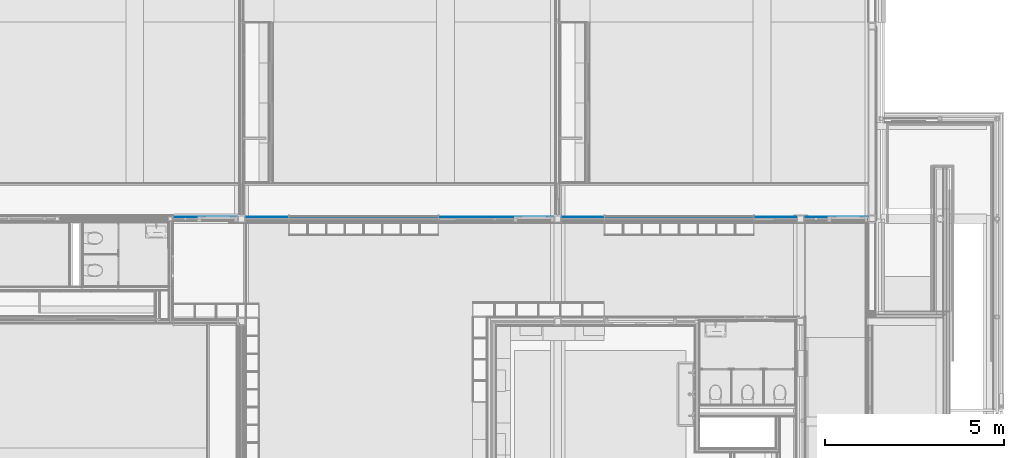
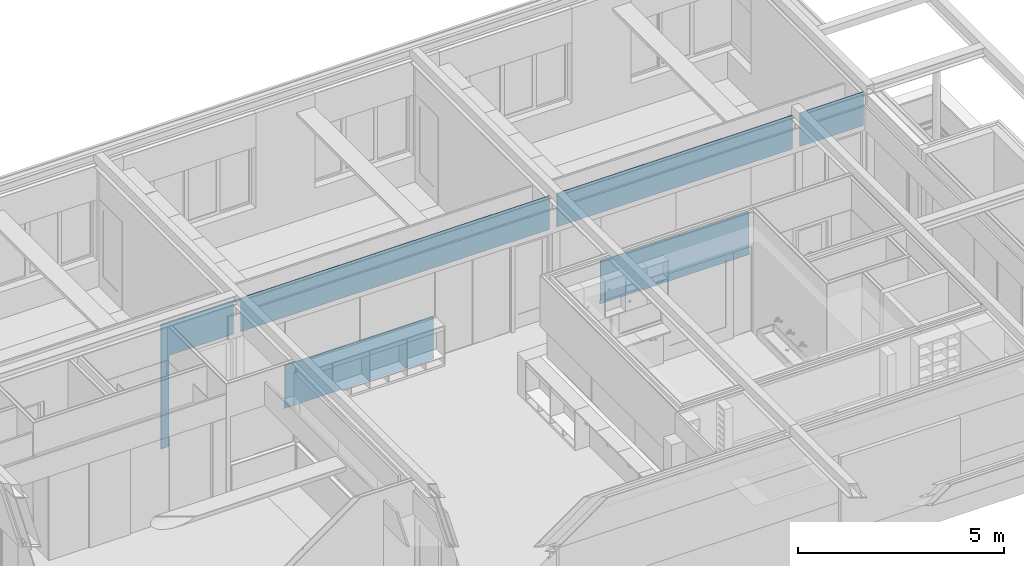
# One storey, part 47 of 137: 1 building element part, 14 openings, 1 element without a shape of its own.
"""IFC2X3 building model written with IfcOpenShell, lengths in millimetres."""

import ifcopenshell
import ifcopenshell.guid

model = None  # the IFC model being written
_history = None  # IfcOwnerHistory: only IFC2X3 demands one
_inside = {}  # id of a spatial element -> (the spatial element, [elements in it])
_under = {}  # id of a project, library or spatial element -> (it, [spatial elements below it])
_declared = {}  # id of a project -> (the project, [libraries it declares])
_typed = {}  # id of a type object -> (the type object, [elements of that type])
_made_of = {}  # id of a material, layer set ... -> (it, [elements and type objects made of it])


def new_model(schema):
    """Start an empty IFC model of exactly this schema.

    Asked for "IFC4X3", IfcOpenShell would pick the latest addendum, in which some entities
    have other attributes; the version numbers below select the first issue.
    IFC2X3 requires an IfcOwnerHistory on every rooted entity: one is made here for all.
    """
    global model, _history
    if schema == "IFC4X3":
        model = ifcopenshell.file(schema_version=(4, 3, 0, 0))
    else:
        model = ifcopenshell.file(schema=schema)
    _inside.clear()
    _under.clear()
    _declared.clear()
    _typed.clear()
    _made_of.clear()
    _history = None
    if model.schema == "IFC2X3":
        org = make("IfcOrganization", Name="unknown")
        user = make(
            "IfcPersonAndOrganization",
            ThePerson=make("IfcPerson", FamilyName="unknown"),
            TheOrganization=org,
        )
        app = make(
            "IfcApplication",
            ApplicationDeveloper=org,
            Version="unknown",
            ApplicationFullName="unknown",
            ApplicationIdentifier="unknown",
        )
        _history = make(
            "IfcOwnerHistory",
            OwningUser=user,
            OwningApplication=app,
            ChangeAction="ADDED",
            CreationDate=0,
        )
    return model


def make(cls, **values):
    """One entity of the class cls with the attributes given. An attribute that is None is left unset."""
    return model.create_entity(
        cls, **{name: value for name, value in values.items() if value is not None}
    )


def entity(cls, *values):
    """Any entity or typed value of the class cls, its attributes in the order of the schema. None: left unset."""
    e = model.create_entity(cls)
    for i, value in enumerate(values):
        if value is not None:
            e[i] = value
    return e


def rooted(cls, **values):
    """An entity with a GlobalId (a new one), such as an element, a storey or a relation."""
    return make(cls, GlobalId=ifcopenshell.guid.new(), OwnerHistory=_history, **values)


def si_unit(unit_type, name, prefix=None):
    """IfcSIUnit, for example si_unit("LENGTHUNIT", "METRE", prefix="MILLI")."""
    return make("IfcSIUnit", UnitType=unit_type, Prefix=prefix, Name=name)


def converted_unit(unit_type, name, factor, base, dimensions=None, offset=None):
    """IfcConversionBasedUnit, such as the inch: factor (a typed value) times the base unit."""
    return make(
        "IfcConversionBasedUnit"
        if offset is None
        else "IfcConversionBasedUnitWithOffset",
        ConversionOffset=offset,
        Dimensions=None
        if dimensions is None
        else entity("IfcDimensionalExponents", *dimensions),
        UnitType=unit_type,
        Name=name,
        ConversionFactor=make(
            "IfcMeasureWithUnit", ValueComponent=factor, UnitComponent=base
        ),
    )


def derived_unit(unit_type, elements):
    """IfcDerivedUnit: a product of units, each with its exponent."""
    return make(
        "IfcDerivedUnit",
        Elements=[
            make("IfcDerivedUnitElement", Unit=unit, Exponent=power)
            for unit, power in elements
        ],
        UnitType=unit_type,
    )


def money_unit(currency):
    """IfcMonetaryUnit."""
    return make("IfcMonetaryUnit", Currency=currency)


def assignment(units):
    """IfcUnitAssignment: the units of a project."""
    return None if units is None else make("IfcUnitAssignment", Units=units)


def point(xyz):
    """IfcCartesianPoint."""
    return None if xyz is None else make("IfcCartesianPoint", Coordinates=xyz)


def direction(xyz):
    """IfcDirection."""
    return None if xyz is None else make("IfcDirection", DirectionRatios=xyz)


def frame(location, z_axis=None, x_axis=None):
    """IfcAxis2Placement3D, a coordinate frame: its origin and axes. An axis left out is left unset."""
    return make(
        "IfcAxis2Placement3D",
        Location=point(location),
        Axis=direction(z_axis),
        RefDirection=direction(x_axis),
    )


def origin_with_axes():
    """The frame at (0, 0, 0) with the z axis (0, 0, 1) and the x axis (1, 0, 0) written out."""
    return frame((0.0, 0.0, 0.0), z_axis=(0.0, 0.0, 1.0), x_axis=(1.0, 0.0, 0.0))


def place(relative_to, where):
    """IfcLocalPlacement: puts the frame where relative to a parent placement (None: the world)."""
    return make(
        "IfcLocalPlacement", PlacementRelTo=relative_to, RelativePlacement=where
    )


def context(
    kind, dimensions, precision=None, world=None, true_north=None, identifier=None
):
    """IfcGeometricRepresentationContext, for example the 3D "Model" context."""
    return make(
        "IfcGeometricRepresentationContext",
        ContextIdentifier=identifier,
        ContextType=kind,
        CoordinateSpaceDimension=dimensions,
        Precision=precision,
        WorldCoordinateSystem=world,
        TrueNorth=true_north,
    )


def subcontext(parent, identifier, kind, view, scale=None):
    """IfcGeometricRepresentationSubContext, for example "Body" below "Model"."""
    return make(
        "IfcGeometricRepresentationSubContext",
        ContextIdentifier=identifier,
        ContextType=kind,
        ParentContext=parent,
        TargetScale=scale,
        TargetView=view,
    )


def project(units=None, contexts=None):
    """IfcProject with its units and contexts."""
    return rooted(
        "IfcProject",
        Name="project",
        RepresentationContexts=contexts,
        UnitsInContext=assignment(units),
    )


def spatial(cls, under=None, at=None, **own):
    """A site, building, storey or space (cls), placed at a placement, below another one or the project."""
    s = rooted(cls, ObjectPlacement=at, **own)
    if under is not None:
        _under.setdefault(under.id(), (under, []))[1].append(s)
    return s


def faces_of(points, faces, orient=None, outer=None):
    """IfcFace entities. A face is a list of loops; a loop is a list of indices into points, from 0.

    orient and outer hold one flag for each loop. By default every Orientation is true, the
    first loop of a face is its IfcFaceOuterBound and the others are IfcFaceBound.
    """
    made = []
    for i, loops in enumerate(faces):
        bounds = []
        for j, loop in enumerate(loops):
            is_outer = j == 0 if outer is None else outer[i][j]
            bounds.append(
                make(
                    "IfcFaceOuterBound" if is_outer else "IfcFaceBound",
                    Bound=make("IfcPolyLoop", Polygon=[points[k] for k in loop]),
                    Orientation=True if orient is None else orient[i][j],
                )
            )
        made.append(make("IfcFace", Bounds=bounds))
    return made


def faceted_brep(points, faces, orient=None, outer=None, voids=None):
    """IfcFacetedBrep: a solid bounded by flat faces; with voids (closed shells), ...WithVoids."""
    shared = [point(p) for p in points]
    hull = make("IfcClosedShell", CfsFaces=faces_of(shared, faces, orient, outer))
    if voids is None:
        return make("IfcFacetedBrep", Outer=hull)
    return make(
        "IfcFacetedBrepWithVoids",
        Outer=hull,
        Voids=[
            make(cls, CfsFaces=faces_of(shared, fs, o, b)) for cls, fs, o, b in voids
        ],
    )


def shape(context_of_items, identifier, shape_type, items):
    """IfcShapeRepresentation: the items that make up one representation, for example the "Body"."""
    return make(
        "IfcShapeRepresentation",
        ContextOfItems=context_of_items,
        RepresentationIdentifier=identifier,
        RepresentationType=shape_type,
        Items=items,
    )


def material(Name=None, Category=None):
    """IfcMaterial."""
    return make("IfcMaterial", Name=Name, Category=Category)


def made_of(thing, what):
    """Note that an element or type object is made of a material, layer set ...; save() writes the relation."""
    if what is not None:
        _made_of.setdefault(what.id(), (what, []))[1].append(thing)
    return thing


def type_object(cls, material=None, **own):
    """A type object (cls), such as IfcWallType, which elements share."""
    return made_of(rooted(cls, **own), material)


def element(
    cls,
    number,
    at=None,
    inside=None,
    cuts=None,
    type_object=None,
    material=None,
    context=None,
    identifier="Body",
    shape_type=None,
    held_by="IfcProductDefinitionShape",
    body=None,
    shapes=None,
    **own,
):
    """One element of the class cls, such as IfcWall. Its Tag is "e" and its number.

    at: its placement. inside: the storey or other place that contains it. cuts: it is an
    opening in that element (IfcRelVoidsElement). A single representation is given by context,
    identifier, shape_type and body (its items); several are given by shapes. held_by: the class
    of the entity that holds the representations. save() writes the other relations.
    """
    e = rooted(cls, Tag="e%d" % number, ObjectPlacement=at, **own)
    if body is not None:
        shapes = [shape(context, identifier, shape_type, body)]
    if shapes is not None:
        e.Representation = make(held_by, Representations=shapes)
    if inside is not None:
        _inside.setdefault(inside.id(), (inside, []))[1].append(e)
    if cuts is not None:
        rooted(
            "IfcRelVoidsElement", RelatingBuildingElement=cuts, RelatedOpeningElement=e
        )
    if type_object is not None:
        _typed.setdefault(type_object.id(), (type_object, []))[1].append(e)
    return made_of(e, material)


def aggregate(whole, parts):
    """IfcRelAggregates: a whole, such as a stair, and the parts it consists of."""
    return rooted("IfcRelAggregates", RelatingObject=whole, RelatedObjects=parts)


def save(model, path):
    """Write the relations noted so far, then the file.

    IfcRelAggregates (storeys below a building ...), IfcRelContainedInSpatialStructure (elements
    in a storey), IfcRelDefinesByType, IfcRelAssociatesMaterial and IfcRelDeclares: one each for
    every whole, place, type object, material and project.
    """
    for whole, parts in _under.values():
        aggregate(whole, parts)
    for where, things in _inside.values():
        rooted(
            "IfcRelContainedInSpatialStructure",
            RelatedElements=things,
            RelatingStructure=where,
        )
    for kind, things in _typed.values():
        rooted("IfcRelDefinesByType", RelatedObjects=things, RelatingType=kind)
    for what, things in _made_of.values():
        rooted("IfcRelAssociatesMaterial", RelatedObjects=things, RelatingMaterial=what)
    for by, libraries in _declared.values():
        rooted("IfcRelDeclares", RelatingContext=by, RelatedDefinitions=libraries)
    model.write(path)


model = new_model("IFC2X3")

# Units and contexts
model_context = context("Model", 3, precision=0.01, world=origin_with_axes(), true_north=direction((0.0, 1.0)))
body_context = subcontext(model_context, "Body", "Model", "MODEL_VIEW")
ifc_project = project(units=[si_unit("LENGTHUNIT", "METRE", prefix="MILLI"), si_unit("AREAUNIT", "SQUARE_METRE"), si_unit("VOLUMEUNIT", "CUBIC_METRE"), converted_unit("PLANEANGLEUNIT", "DEGREE", entity("IfcPlaneAngleMeasure", 0.0174532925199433), si_unit("PLANEANGLEUNIT", "RADIAN"), dimensions=[0, 0, 0, 0, 0, 0, 0]), money_unit("EUR"), converted_unit("TIMEUNIT", "Year", entity("IfcTimeMeasure", 31556926.0), si_unit("TIMEUNIT", "SECOND"), dimensions=[0, 0, 1, 0, 0, 0, 0]), si_unit("MASSUNIT", "GRAM", prefix="KILO"), si_unit("THERMODYNAMICTEMPERATUREUNIT", "DEGREE_CELSIUS"), si_unit("LUMINOUSINTENSITYUNIT", "LUMEN"), si_unit("ENERGYUNIT", "JOULE", prefix="MEGA"), derived_unit("THERMALCONDUCTANCEUNIT", [(si_unit("POWERUNIT", "WATT"), 1), (si_unit("LENGTHUNIT", "METRE"), -1), (si_unit("THERMODYNAMICTEMPERATUREUNIT", "KELVIN"), -1)]), derived_unit("SPECIFICHEATCAPACITYUNIT", [(si_unit("ENERGYUNIT", "JOULE"), 1), (si_unit("MASSUNIT", "GRAM", prefix="KILO"), -1), (si_unit("THERMODYNAMICTEMPERATUREUNIT", "KELVIN"), -1)]), derived_unit("MASSDENSITYUNIT", [(si_unit("MASSUNIT", "GRAM", prefix="KILO"), 1), (si_unit("VOLUMEUNIT", "CUBIC_METRE"), -1)])], contexts=[model_context])

# Site, building, storey
site_placement = place(None, origin_with_axes())
site = spatial("IfcSite", under=ifc_project, at=site_placement, Name="Site", CompositionType="ELEMENT")
building_placement = place(site_placement, origin_with_axes())
building = spatial("IfcBuilding", under=site, at=building_placement, Name="Naam gebouw", CompositionType="ELEMENT")
storey_placement = place(building_placement, frame((0.0, 0.0, 3960.0), z_axis=(0.0, 0.0, 1.0), x_axis=(1.0, 0.0, 0.0)))
storey = spatial("IfcBuildingStorey", under=building, at=storey_placement, Name="1e verdieping", CompositionType="ELEMENT", Elevation=3960.0)

# Proxy, openings, building element part
building_element_proxy_type = type_object("IfcBuildingElementProxyType", Name="22 Metal stud 125 gips 125", PredefinedType="NOTDEFINED")
proxy_placement = place(storey_placement, frame((6940.0, 22324.97621406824, -100.0000000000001), z_axis=(0.0, 0.0, 1.0), x_axis=(1.0, 0.0, 0.0)))
proxy = element("IfcBuildingElementProxy", 1, at=proxy_placement, inside=storey, type_object=building_element_proxy_type, Name="_Wand-x")
opening_1_placement = place(proxy_placement, frame((16859.99903999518, 0.0, 100.0000000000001), z_axis=(0.0, 0.0, 1.0), x_axis=(1.0, 0.0, 0.0)))
element("IfcOpeningElement", 2, at=opening_1_placement, cuts=proxy, Name="_B.01", context=body_context, shape_type="Brep", body=[
    faceted_brep([(599.9999999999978, -12.49999999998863, -100.0000000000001), (599.9999999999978, -12.49999999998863, 2600.0), (599.9999999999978, -63.49999999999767, 2600.0), (599.9999999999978, -63.49999999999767, -100.0000000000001), (599.9999999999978, 63.50000000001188, -100.0000000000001), (599.9999999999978, 63.50000000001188, 2600.0), (-599.9999999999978, -12.49999999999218, 2600.0), (-599.9999999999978, -63.50000000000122, 2600.0), (-599.9999999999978, 63.50000000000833, 2600.0), (-599.9999999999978, -63.50000000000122, -100.0000000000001), (-599.9999999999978, -12.49999999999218, -100.0000000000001), (-599.9999999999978, 63.50000000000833, -100.0000000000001)], [[[0, 1, 2, 3]], [[1, 0, 4, 5]], [[6, 7, 2, 1, 5, 8]], [[7, 9, 3, 2]], [[0, 3, 9, 10, 11, 4]], [[5, 4, 11, 8]], [[6, 10, 9, 7]], [[10, 6, 8, 11]]]),
])
opening_2_placement = place(proxy_placement, frame((11459.99903999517, 0.0, 100.0000000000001), z_axis=(0.0, 0.0, 1.0), x_axis=(1.0, 0.0, 0.0)))
element("IfcOpeningElement", 3, at=opening_2_placement, cuts=proxy, Name="_B.01", context=body_context, shape_type="Brep", body=[
    faceted_brep([(600.0000000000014, -12.49999999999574, -100.0000000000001), (600.0000000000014, -12.49999999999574, 2600.0), (600.0000000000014, -63.50000000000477, 2600.0), (600.0000000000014, -63.50000000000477, -100.0000000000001), (600.0000000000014, 63.50000000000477, -100.0000000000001), (600.0000000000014, 63.50000000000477, 2600.0), (-600.0000000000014, -12.49999999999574, 2600.0), (-600.0000000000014, -63.50000000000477, 2600.0), (-600.0000000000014, 63.50000000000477, 2600.0), (-600.0000000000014, -63.50000000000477, -100.0000000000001), (-600.0000000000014, -12.49999999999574, -100.0000000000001), (-600.0000000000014, 63.50000000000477, -100.0000000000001)], [[[0, 1, 2, 3]], [[1, 0, 4, 5]], [[6, 7, 2, 1, 5, 8]], [[7, 9, 3, 2]], [[0, 3, 9, 10, 11, 4]], [[5, 4, 11, 8]], [[6, 10, 9, 7]], [[10, 6, 8, 11]]]),
])
opening_3_placement = place(proxy_placement, frame((7954.999824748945, 0.0, 100.0000000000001), z_axis=(0.0, 0.0, 1.0), x_axis=(1.0, 0.0, 0.0)))
element("IfcOpeningElement", 4, at=opening_3_placement, cuts=proxy, Name="_B.06", context=body_context, shape_type="Brep", body=[
    faceted_brep([(524.9998247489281, -12.49999999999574, -100.0000000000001), (524.9998247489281, -12.49999999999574, 2600.0), (524.9998247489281, -63.50000000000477, 2600.0), (524.9998247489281, -63.50000000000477, -100.0000000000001), (524.9998247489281, 63.50000000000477, -100.0000000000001), (524.9998247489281, 63.50000000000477, 2600.0), (-524.9998247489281, -12.49999999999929, 2600.0), (-524.9998247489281, -63.50000000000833, 2600.0), (-524.9998247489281, 63.50000000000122, 2600.0), (-524.9998247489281, -63.50000000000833, -100.0000000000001), (-524.9998247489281, -12.49999999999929, -100.0000000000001), (-524.9998247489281, 63.50000000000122, -100.0000000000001)], [[[0, 1, 2, 3]], [[1, 0, 4, 5]], [[6, 7, 2, 1, 5, 8]], [[7, 9, 3, 2]], [[0, 3, 9, 10, 11, 4]], [[5, 4, 11, 8]], [[6, 10, 9, 7]], [[10, 6, 8, 11]]]),
])
opening_4_placement = place(proxy_placement, frame((15209.99903999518, 0.0, 1300.0), z_axis=(0.0, 0.0, 1.0), x_axis=(1.0, 0.0, 0.0)))
element("IfcOpeningElement", 5, at=opening_4_placement, cuts=proxy, Name="_C.01", context=body_context, shape_type="Brep", body=[
    faceted_brep([(1050.000000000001, -12.49999999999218, 0.0), (1050.000000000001, -12.49999999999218, 1400.0), (1050.000000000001, -63.50000000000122, 1400.0), (1050.000000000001, -63.50000000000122, 0.0), (1050.000000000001, 63.50000000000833, 0.0), (1050.000000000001, 63.50000000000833, 1400.0), (-1050.000000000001, -12.49999999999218, 1400.0), (-1050.000000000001, -63.50000000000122, 1400.0), (-1050.000000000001, 63.50000000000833, 1400.0), (-1050.000000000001, -63.50000000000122, 0.0), (-1050.000000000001, -12.49999999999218, 0.0), (-1050.000000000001, 63.50000000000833, 0.0)], [[[0, 1, 2, 3]], [[1, 0, 4, 5]], [[6, 7, 2, 1, 5, 8]], [[7, 9, 3, 2]], [[0, 3, 9, 10, 11, 4]], [[5, 4, 11, 8]], [[6, 10, 9, 7]], [[10, 6, 8, 11]]]),
])
opening_5_placement = place(proxy_placement, frame((2620.000000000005, 0.0, 100.0000000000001), z_axis=(0.0, 0.0, 1.0), x_axis=(1.0, 0.0, 0.0)))
element("IfcOpeningElement", 6, at=opening_5_placement, cuts=proxy, Name="_B.03", context=body_context, shape_type="Brep", body=[
    faceted_brep([(610.0000000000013, -12.49999999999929, -100.0000000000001), (610.0000000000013, -12.49999999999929, 2600.0), (610.0000000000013, -63.50000000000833, 2600.0), (610.0000000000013, -63.50000000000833, -100.0000000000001), (610.0000000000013, 63.50000000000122, -100.0000000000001), (610.0000000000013, 63.50000000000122, 2600.0), (-610.0000000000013, -12.49999999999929, 2600.0), (-610.0000000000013, -63.50000000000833, 2600.0), (-610.0000000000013, 63.50000000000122, 2600.0), (-610.0000000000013, -63.50000000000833, -100.0000000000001), (-610.0000000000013, -12.49999999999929, -100.0000000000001), (-610.0000000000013, 63.50000000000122, -100.0000000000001)], [[[0, 1, 2, 3]], [[1, 0, 4, 5]], [[6, 7, 2, 1, 5, 8]], [[7, 9, 3, 2]], [[0, 3, 9, 10, 11, 4]], [[5, 4, 11, 8]], [[6, 10, 9, 7]], [[10, 6, 8, 11]]]),
])
opening_6_placement = place(proxy_placement, frame((6380.000000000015, 0.0, 1300.0), z_axis=(0.0, 0.0, 1.0), x_axis=(1.0, 0.0, 0.0)))
element("IfcOpeningElement", 7, at=opening_6_placement, cuts=proxy, Name="_C.01", context=body_context, shape_type="Brep", body=[
    faceted_brep([(1050.000000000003, -12.49999999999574, 0.0), (1050.000000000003, -12.49999999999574, 1400.0), (1050.000000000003, -63.50000000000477, 1400.0), (1050.000000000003, -63.50000000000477, 0.0), (1050.000000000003, 63.50000000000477, 0.0), (1050.000000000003, 63.50000000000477, 1400.0), (-1050.000000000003, -12.49999999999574, 1400.0), (-1050.000000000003, -63.50000000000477, 1400.0), (-1050.000000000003, 63.50000000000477, 1400.0), (-1050.000000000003, -63.50000000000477, 0.0), (-1050.000000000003, -12.49999999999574, 0.0), (-1050.000000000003, 63.50000000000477, 0.0)], [[[0, 1, 2, 3]], [[1, 0, 4, 5]], [[6, 7, 2, 1, 5, 8]], [[7, 9, 3, 2]], [[0, 3, 9, 10, 11, 4]], [[5, 4, 11, 8]], [[6, 10, 9, 7]], [[10, 6, 8, 11]]]),
])
opening_7_placement = place(proxy_placement, frame((4279.999712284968, 0.0, 1300.0), z_axis=(0.0, 0.0, 1.0), x_axis=(1.0, 0.0, 0.0)))
element("IfcOpeningElement", 8, at=opening_7_placement, cuts=proxy, Name="_C.01", context=body_context, shape_type="Brep", body=[
    faceted_brep([(1049.999712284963, -12.49999999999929, 0.0), (1049.999712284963, -12.49999999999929, 1400.0), (1049.999712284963, -63.50000000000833, 1400.0), (1049.999712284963, -63.50000000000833, 0.0), (1049.999712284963, 63.50000000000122, 0.0), (1049.999712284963, 63.50000000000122, 1400.0), (-1049.999712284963, -12.49999999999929, 1400.0), (-1049.999712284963, -63.50000000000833, 1400.0), (-1049.999712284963, 63.50000000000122, 1400.0), (-1049.999712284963, -63.50000000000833, 0.0), (-1049.999712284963, -12.49999999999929, 0.0), (-1049.999712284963, 63.50000000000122, 0.0)], [[[0, 1, 2, 3]], [[1, 0, 4, 5]], [[6, 7, 2, 1, 5, 8]], [[7, 9, 3, 2]], [[0, 3, 9, 10, 11, 4]], [[5, 4, 11, 8]], [[6, 10, 9, 7]], [[10, 6, 8, 11]]]),
])
opening_8_placement = place(proxy_placement, frame((9004.999474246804, 0.0, 100.0000000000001), z_axis=(0.0, 0.0, 1.0), x_axis=(1.0, 0.0, 0.0)))
element("IfcOpeningElement", 9, at=opening_8_placement, cuts=proxy, Name="_B.06", context=body_context, shape_type="Brep", body=[
    faceted_brep([(524.9998247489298, -12.49999999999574, -100.0000000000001), (524.9998247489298, -12.49999999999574, 2600.0), (524.9998247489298, -63.50000000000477, 2600.0), (524.9998247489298, -63.50000000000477, -100.0000000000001), (524.9998247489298, 63.50000000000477, -100.0000000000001), (524.9998247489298, 63.50000000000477, 2600.0), (-524.9998247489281, -12.49999999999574, 2600.0), (-524.9998247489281, -63.50000000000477, 2600.0), (-524.9998247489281, 63.50000000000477, 2600.0), (-524.9998247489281, -63.50000000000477, -100.0000000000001), (-524.9998247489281, -12.49999999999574, -100.0000000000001), (-524.9998247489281, 63.50000000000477, -100.0000000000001)], [[[0, 1, 2, 3]], [[1, 0, 4, 5]], [[6, 7, 2, 1, 5, 8]], [[7, 9, 3, 2]], [[0, 3, 9, 10, 11, 4]], [[5, 4, 11, 8]], [[6, 10, 9, 7]], [[10, 6, 8, 11]]]),
])
opening_9_placement = place(proxy_placement, frame((17987.99950490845, 0.0, 100.0000000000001), z_axis=(0.0, 0.0, 1.0), x_axis=(1.0, 0.0, 0.0)))
element("IfcOpeningElement", 10, at=opening_9_placement, cuts=proxy, Name="_B.09", context=body_context, shape_type="Brep", body=[
    faceted_brep([(-328.0004950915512, 12.50000000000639, -100.0000000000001), (-328.0004950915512, 12.50000000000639, 2600.0), (-328.0004950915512, 63.50000000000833, 2600.0), (-328.0004950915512, 63.50000000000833, -100.0000000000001), (-328.0004950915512, -63.50000000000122, -100.0000000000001), (-328.0004950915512, -63.50000000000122, 2600.0), (328.0004950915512, 12.50000000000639, 2600.0), (328.0004950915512, 63.50000000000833, 2600.0), (328.0004950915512, -63.50000000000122, 2600.0), (328.0004950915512, 63.50000000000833, -100.0000000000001), (328.0004950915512, 12.50000000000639, -100.0000000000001), (328.0004950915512, -63.50000000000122, -100.0000000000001)], [[[0, 1, 2, 3]], [[1, 0, 4, 5]], [[6, 7, 2, 1, 5, 8]], [[7, 9, 3, 2]], [[0, 3, 9, 10, 11, 4]], [[5, 4, 11, 8]], [[6, 10, 9, 7]], [[10, 6, 8, 11]]]),
])
opening_10_placement = place(proxy_placement, frame((18881.0, 0.0, 100.0000000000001), z_axis=(0.0, 0.0, 1.0), x_axis=(1.0, 0.0, 0.0)))
element("IfcOpeningElement", 11, at=opening_10_placement, cuts=proxy, Name="_01.01", context=body_context, shape_type="Brep", body=[
    faceted_brep([(-565.0000000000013, -63.50000000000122, 2600.0), (-565.0000000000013, -63.50000000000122, -100.0000000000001), (565.0000000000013, -63.50000000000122, -100.0000000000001), (565.0000000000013, -63.50000000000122, 2600.0), (-565.0000000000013, 63.50000000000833, 2600.0), (-565.0000000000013, 63.50000000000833, -100.0000000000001), (565.0000000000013, 63.50000000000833, -100.0000000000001), (565.0000000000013, 63.50000000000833, 2600.0)], [[[0, 1, 2, 3]], [[4, 5, 1, 0]], [[5, 6, 2, 1]], [[6, 7, 3, 2]], [[7, 4, 0, 3]], [[6, 5, 4, 7]]]),
])
opening_11_placement = place(proxy_placement, frame((339.9999604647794, 0.0, 100.0000000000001), z_axis=(0.0, 0.0, 1.0), x_axis=(1.0, 0.0, 0.0)))
element("IfcOpeningElement", 12, at=opening_11_placement, cuts=proxy, Name="_B.07", context=body_context, shape_type="Brep", body=[
    faceted_brep([(-339.9999604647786, 12.49999999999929, -100.0000000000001), (-339.9999604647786, 12.49999999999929, 2600.0), (-339.9999604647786, 63.50000000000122, 2600.0), (-339.9999604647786, 63.50000000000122, -100.0000000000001), (-339.9999604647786, -63.50000000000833, -100.0000000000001), (-339.9999604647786, -63.50000000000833, 2600.0), (339.9999604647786, 12.49999999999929, 2600.0), (339.9999604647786, 63.50000000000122, 2600.0), (339.9999604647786, -63.50000000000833, 2600.0), (339.9999604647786, 63.50000000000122, -100.0000000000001), (339.9999604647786, 12.49999999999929, -100.0000000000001), (339.9999604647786, -63.50000000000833, -100.0000000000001)], [[[0, 1, 2, 3]], [[1, 0, 4, 5]], [[6, 7, 2, 1, 5, 8]], [[7, 9, 3, 2]], [[0, 3, 9, 10, 11, 4]], [[5, 4, 11, 8]], [[6, 10, 9, 7]], [[10, 6, 8, 11]]]),
])
opening_12_placement = place(proxy_placement, frame((10094.99929899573, 0.0, 100.0000000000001), z_axis=(0.0, 0.0, 1.0), x_axis=(1.0, 0.0, 0.0)))
element("IfcOpeningElement", 13, at=opening_12_placement, cuts=proxy, Name="_01.01", context=body_context, shape_type="Brep", body=[
    faceted_brep([(-565.0000000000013, -63.50000000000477, 2600.0), (-565.0000000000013, -63.50000000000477, -100.0000000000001), (565.0000000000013, -63.50000000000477, -100.0000000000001), (565.0000000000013, -63.50000000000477, 2600.0), (-565.0000000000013, 63.50000000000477, 2600.0), (-565.0000000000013, 63.50000000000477, -100.0000000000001), (565.0000000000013, 63.50000000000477, -100.0000000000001), (565.0000000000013, 63.50000000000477, 2600.0)], [[[0, 1, 2, 3]], [[4, 5, 1, 0]], [[5, 6, 2, 1]], [[6, 7, 3, 2]], [[7, 4, 0, 3]], [[6, 5, 4, 7]]]),
])
opening_13_placement = place(proxy_placement, frame((13109.99903999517, 0.0, 1300.0), z_axis=(0.0, 0.0, 1.0), x_axis=(1.0, 0.0, 0.0)))
element("IfcOpeningElement", 14, at=opening_13_placement, cuts=proxy, Name="_C.01", context=body_context, shape_type="Brep", body=[
    faceted_brep([(1050.000000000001, -12.49999999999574, 0.0), (1050.000000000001, -12.49999999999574, 1400.0), (1050.000000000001, -63.50000000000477, 1400.0), (1050.000000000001, -63.50000000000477, 0.0), (1050.000000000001, 63.50000000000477, 0.0), (1050.000000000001, 63.50000000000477, 1400.0), (-1050.000000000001, -12.49999999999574, 1400.0), (-1050.000000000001, -63.50000000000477, 1400.0), (-1050.000000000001, 63.50000000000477, 1400.0), (-1050.000000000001, -63.50000000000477, 0.0), (-1050.000000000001, -12.49999999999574, 0.0), (-1050.000000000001, 63.50000000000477, 0.0)], [[[0, 1, 2, 3]], [[1, 0, 4, 5]], [[6, 7, 2, 1, 5, 8]], [[7, 9, 3, 2]], [[0, 3, 9, 10, 11, 4]], [[5, 4, 11, 8]], [[6, 10, 9, 7]], [[10, 6, 8, 11]]]),
])
opening_14_placement = place(proxy_placement, frame((1244.999920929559, 0.0, 100.0000000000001), z_axis=(0.0, 0.0, 1.0), x_axis=(1.0, 0.0, 0.0)))
element("IfcOpeningElement", 15, at=opening_14_placement, cuts=proxy, Name="_01.01", context=body_context, shape_type="Brep", body=[
    faceted_brep([(-564.9999999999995, -63.50000000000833, 2600.0), (-564.9999999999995, -63.50000000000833, -100.0000000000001), (564.9999999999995, -63.50000000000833, -100.0000000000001), (564.9999999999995, -63.50000000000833, 2600.0), (-564.9999999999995, 63.50000000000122, 2600.0), (-564.9999999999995, 63.50000000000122, -100.0000000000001), (564.9999999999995, 63.50000000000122, -100.0000000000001), (564.9999999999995, 63.50000000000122, 2600.0)], [[[0, 1, 2, 3]], [[4, 5, 1, 0]], [[5, 6, 2, 1]], [[6, 7, 3, 2]], [[7, 4, 0, 3]], [[6, 5, 4, 7]]]),
])
ifc_material = material(Name="Gipsplaat")
building_element_part_placement = place(proxy_placement, origin_with_axes())
building_element_part = element("IfcBuildingElementPart", 16, at=building_element_part_placement, material=ifc_material, Name="Gipsplaat", context=body_context, shape_type="Brep", body=[
    faceted_brep([(16239.9990399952, 62.50000000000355, 1280.000000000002), (16239.9990399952, 62.50000000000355, 100.0000000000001), (16259.99903999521, 62.50000000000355, 100.0000000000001), (16259.99903999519, 62.50000000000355, 0.0), (12059.99903999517, 62.50000000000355, 0.0), (12059.99903998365, 62.50000000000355, 100.0000000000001), (12079.99903998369, 62.50000000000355, 100.0000000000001), (12079.99903999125, 62.50000000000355, 1280.000000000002), (16239.9990399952, 50.00000000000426, 1280.000000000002), (16239.9990399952, 50.00000000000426, 100.0000000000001), (16259.99903999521, 50.00000000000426, 100.0000000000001), (16259.99903999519, 50.00000000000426, 0.0), (12059.99903999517, 50.00000000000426, 0.0), (12059.999016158, 50.00000000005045, 100.0000000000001), (12079.99901615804, 50.00000000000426, 100.0000000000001), (12079.99901616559, 50.00000000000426, 1280.000000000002)], [[[0, 1, 2, 3, 4, 5, 6, 7]], [[1, 0, 8, 9]], [[10, 2, 1, 9]], [[2, 10, 11, 3]], [[11, 12, 4, 3]], [[4, 12, 13, 5]], [[13, 14, 6, 5]], [[14, 15, 7, 6]], [[8, 0, 7, 15]], [[9, 8, 15, 14, 13, 12, 11, 10]]]),
    faceted_brep([(17459.99903999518, 50.00000000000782, 2700.0), (10859.99903999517, 50.00000000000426, 2700.0), (10859.99903999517, 62.50000000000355, 2700.0), (17459.99903999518, 62.50000000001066, 2700.0), (17459.99903999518, 50.00000000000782, 3685.000029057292), (17359.99903999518, 50.00000000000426, 3685.000029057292), (17359.99903999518, 50.00000000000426, 3695.000029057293), (17458.99903999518, 50.00000000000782, 3695.000029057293), (17458.99903999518, 50.00000000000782, 3700.0), (10860.99942456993, 50.00000000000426, 3700.0), (10860.99942456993, 50.00000000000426, 3695.000029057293), (10959.99942456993, 50.00000000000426, 3695.000029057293), (10959.99942456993, 50.00000000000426, 3675.000029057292), (10859.99942456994, 50.00000000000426, 3675.000029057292), (10859.99942456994, 62.50000000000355, 3675.000029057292), (10959.99942456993, 62.50000000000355, 3675.000029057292), (10959.99942456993, 62.50000000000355, 3695.000029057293), (10860.99942456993, 62.50000000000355, 3695.000029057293), (10860.99942456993, 62.50000000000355, 3700.0), (17458.99903999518, 62.50000000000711, 3700.0), (17458.99903999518, 62.50000000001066, 3695.000029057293), (17359.99903999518, 62.50000000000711, 3695.000029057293), (17359.99903999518, 62.50000000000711, 3685.000029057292), (17459.99903999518, 62.50000000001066, 3685.000029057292)], [[[0, 1, 2, 3]], [[1, 0, 4, 5, 6, 7, 8, 9, 10, 11, 12, 13]], [[1, 13, 14, 2]], [[3, 2, 14, 15, 16, 17, 18, 19, 20, 21, 22, 23]], [[23, 4, 0, 3]], [[5, 4, 23, 22]], [[6, 5, 22, 21]], [[7, 6, 21, 20]], [[8, 7, 20, 19]], [[18, 9, 8, 19]], [[17, 10, 9, 18]], [[11, 10, 17, 16]], [[12, 11, 16, 15]], [[15, 14, 13, 12]]]),
    faceted_brep([(1809.999920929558, 62.50000000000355, 2700.0), (1810.000000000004, 62.50000000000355, 3630.0), (1810.000000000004, 50.00000000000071, 3630.0), (1809.999920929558, 50.00000000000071, 2700.0), (2010.000000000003, 62.50000000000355, 2700.0), (2010.000000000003, 62.50000000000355, 3630.0), (0.0, 62.50000000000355, 2700.0), (0.0, 62.5, 0.0), (-225.0000000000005, 62.5, 0.0), (-225.0000000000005, 62.5, 3700.0), (1809.006942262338, 62.5, 3700.0), (1809.006942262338, 62.5, 3695.000002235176), (1710.00694226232, 62.5, 3695.000002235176), (1710.00694226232, 62.5, 3683.000002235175), (2110.006942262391, 62.50000000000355, 3683.000002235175), (2110.006942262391, 62.50000000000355, 3695.000002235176), (2011.006942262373, 62.5, 3695.000002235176), (2011.006942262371, 62.5, 3700.0), (10658.99942456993, 62.50000000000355, 3700.0), (10658.99942456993, 62.50000000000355, 3695.000029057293), (10559.99942456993, 62.50000000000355, 3695.000029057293), (10559.99942456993, 62.50000000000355, 3675.000029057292), (10659.99942456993, 62.50000000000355, 3675.000029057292), (10659.99929899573, 62.50000000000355, 2700.0), (2010.000000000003, 50.00000000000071, 3630.0), (-25.00000000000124, 50.00000000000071, 0.0), (0.0, 50.00000000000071, 0.0), (0.0, 50.00000000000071, 2700.0), (2010.000000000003, 50.00000000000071, 2700.0), (10659.99929899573, 50.00000000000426, 2700.0), (10659.99942456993, 50.00000000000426, 3675.000029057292), (10559.99942456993, 50.00000000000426, 3675.000029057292), (10559.99942456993, 50.00000000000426, 3695.000029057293), (10658.99942456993, 50.00000000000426, 3695.000029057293), (10658.99942456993, 50.00000000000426, 3700.0), (2011.006934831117, 50.00000000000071, 3700.0), (2011.006934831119, 50.00000000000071, 3695.000002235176), (2110.006934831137, 50.00000000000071, 3695.000002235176), (2110.006934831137, 50.00000000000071, 3683.000002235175), (1710.006934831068, 50.00000000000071, 3683.000002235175), (1710.006934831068, 50.00000000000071, 3695.000002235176), (1809.006934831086, 50.00000000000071, 3695.000002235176), (1809.006934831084, 50.00000000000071, 3700.0), (-25.00000000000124, 50.00000000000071, 3699.999999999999), (-25.00000000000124, 59.9999999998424, 0.0), (-144.9999999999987, 59.9999999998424, 0.0), (-144.9999999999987, 50.00000000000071, 0.0), (-225.0000000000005, 50.00000000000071, 0.0), (-225.0000000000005, 50.00000000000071, 3700.0), (-144.9999999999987, 50.00000000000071, 3699.999999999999), (-144.9999999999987, 59.9999999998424, 3699.999999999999), (-25.00000000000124, 59.9999999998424, 3699.999999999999)], [[[0, 1, 2, 3]], [[4, 5, 1, 0, 6, 7, 8, 9, 10, 11, 12, 13, 14, 15, 16, 17, 18, 19, 20, 21, 22, 23]], [[2, 1, 5, 24]], [[25, 26, 27, 3, 2, 24, 28, 29, 30, 31, 32, 33, 34, 35, 36, 37, 38, 39, 40, 41, 42, 43]], [[3, 27, 6, 0]], [[5, 4, 28, 24]], [[26, 7, 6, 27]], [[8, 7, 26, 25, 44, 45, 46, 47]], [[47, 48, 9, 8]], [[10, 9, 48, 49, 50, 51, 43, 42]], [[11, 10, 42, 41]], [[12, 11, 41, 40]], [[13, 12, 40, 39]], [[14, 13, 39, 38]], [[15, 14, 38, 37]], [[16, 15, 37, 36]], [[35, 17, 16, 36]], [[17, 35, 34, 18]], [[19, 18, 34, 33]], [[20, 19, 33, 32]], [[21, 20, 32, 31]], [[22, 21, 31, 30]], [[22, 30, 29, 23]], [[28, 4, 23, 29]], [[51, 44, 25, 43]], [[50, 45, 44, 51]], [[49, 46, 45, 50]], [[49, 48, 47, 46]]]),
    faceted_brep([(3229.999999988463, 62.50000000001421, 100.0000000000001), (3249.9999999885, 62.5, 100.0000000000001), (3249.999999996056, 62.5, 1280.000000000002), (7410.000000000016, 62.5, 1280.000000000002), (7410.000000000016, 62.5, 100.0000000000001), (7430.000000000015, 62.5, 100.0000000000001), (7430.000000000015, 62.5, 0.0), (3230.000000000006, 62.5, 0.0), (3229.999976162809, 50.00000000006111, 100.0000000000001), (3249.999976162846, 50.00000000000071, 100.0000000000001), (3249.999976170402, 50.00000000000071, 1280.000000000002), (7410.000000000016, 50.00000000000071, 1280.000000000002), (7410.000000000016, 50.00000000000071, 100.0000000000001), (7430.000000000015, 50.00000000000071, 100.0000000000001), (7430.000000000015, 50.00000000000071, 0.0), (3230.000000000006, 50.00000000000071, 0.0)], [[[0, 1, 2, 3, 4, 5, 6, 7]], [[1, 0, 8, 9]], [[10, 2, 1, 9]], [[2, 10, 11, 3]], [[4, 3, 11, 12]], [[4, 12, 13, 5]], [[14, 6, 5, 13]], [[14, 15, 7, 6]], [[8, 0, 7, 15]], [[9, 8, 15, 14, 13, 12, 11, 10]]]),
    faceted_brep([(2005.006942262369, 62.5, 3700.0), (1815.006942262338, 62.5, 3700.0), (1815.006934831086, 50.00000000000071, 3700.0), (2005.006934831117, 50.00000000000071, 3700.0), (2005.006942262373, 62.5, 3695.000002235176), (1815.00694226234, 62.50000000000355, 3695.000002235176), (1815.006934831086, 50.00000000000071, 3695.000002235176), (2005.006934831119, 50.00000000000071, 3695.000002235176)], [[[0, 1, 2, 3]], [[4, 5, 1, 0]], [[6, 2, 1, 5]], [[6, 7, 3, 2]], [[7, 4, 0, 3]], [[6, 5, 4, 7]]]),
    faceted_brep([(19446.0, 50.00000000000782, 2700.0), (19446.0, 62.50000000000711, 2700.0), (19446.0, 62.50000000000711, 3683.0), (19446.0, 50.00000000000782, 3683.0), (18316.0, 62.50000000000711, 2700.0), (18316.0, 50.00000000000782, 2700.0), (17659.9990098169, 50.00000000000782, 2700.0), (17659.9990098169, 62.50000000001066, 2700.0), (17659.99903999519, 62.50000000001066, 3685.000029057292), (17759.99903999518, 62.50000000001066, 3685.000029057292), (17759.99903999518, 62.50000000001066, 3695.000029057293), (17660.99903999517, 62.50000000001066, 3695.000029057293), (17660.99903663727, 62.50000000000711, 3700.0), (19446.0, 62.50000000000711, 3700.0), (19446.0, 62.50000000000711, 3695.000000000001), (19360.99999552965, 62.50000000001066, 3695.000000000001), (19360.99999552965, 62.50000000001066, 3683.0), (19360.99999552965, 50.00000000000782, 3683.0), (19360.99999552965, 50.00000000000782, 3695.000000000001), (19446.0, 50.00000000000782, 3695.000000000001), (19446.0, 50.00000000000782, 3700.0), (17660.99903663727, 50.00000000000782, 3700.0), (17660.99903999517, 50.00000000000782, 3695.000029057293), (17759.99903999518, 50.00000000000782, 3695.000029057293), (17759.99903999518, 50.00000000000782, 3685.000029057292), (17659.99903999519, 50.00000000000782, 3685.000029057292)], [[[0, 1, 2, 3]], [[4, 1, 0, 5, 6, 7]], [[1, 4, 7, 8, 9, 10, 11, 12, 13, 14, 15, 16, 2]], [[2, 16, 17, 3]], [[5, 0, 3, 17, 18, 19, 20, 21, 22, 23, 24, 25, 6]], [[6, 25, 8, 7]], [[24, 9, 8, 25]], [[9, 24, 23, 10]], [[10, 23, 22, 11]], [[12, 11, 22, 21]], [[21, 20, 13, 12]], [[14, 13, 20, 19]], [[14, 19, 18, 15]], [[15, 18, 17, 16]]]),
])
aggregate(proxy, [building_element_part])

save(model, "model.ifc")
